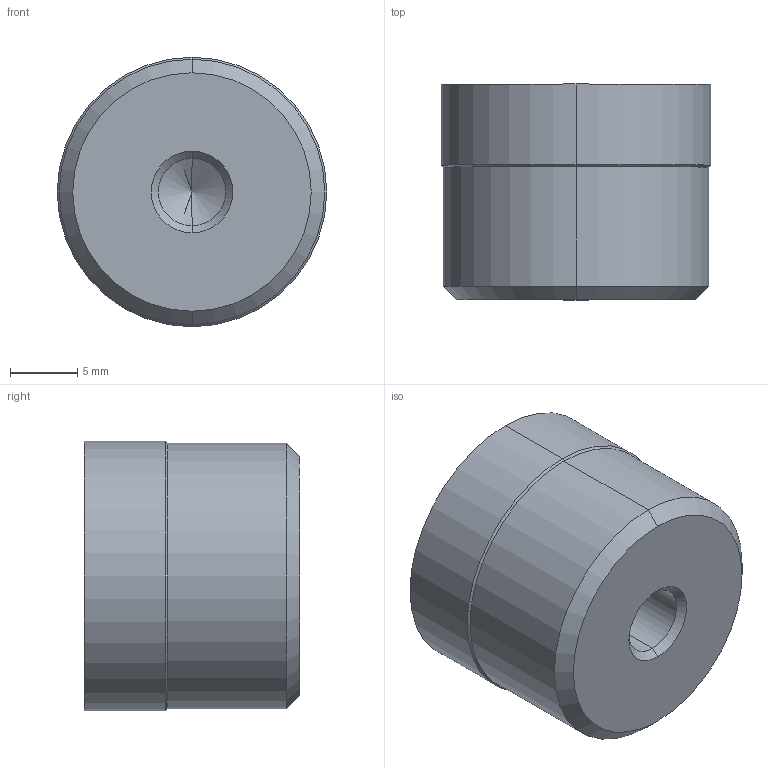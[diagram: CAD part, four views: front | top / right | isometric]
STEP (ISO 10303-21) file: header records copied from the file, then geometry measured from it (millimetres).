
FILE_DESCRIPTION (( 'STEP AP203' ), '1' );
FILE_NAME ('IR-20.STEP', '2017-09-12T06:27:11', ( 'Balzi' ), ( '' ), 'SwSTEP 2.0', 'SolidWorks 2017', '' );
FILE_SCHEMA (( 'CONFIG_CONTROL_DESIGN' ));
Length unit declared in the file: millimetre
Products named in the file (1): IR-20
Bounding box: 20 x 16 x 20 mm (x, y, z)
Volume: 4635.8 mm3; surface area: 1794.9 mm2
Topology: 1 solids, 1 shells, 25 faces, 50 edges, 29 vertices
Faces by surface type: cone 8, cylinder 6, bspline 6, plane 5
Entity records: 1623 total; most frequent: CARTESIAN_POINT 1065, ORIENTED_EDGE 96, DIRECTION 92, EDGE_CURVE 48, AXIS2_PLACEMENT_3D 36, VERTEX_POINT 29, EDGE_LOOP 29, FACE_OUTER_BOUND 25
